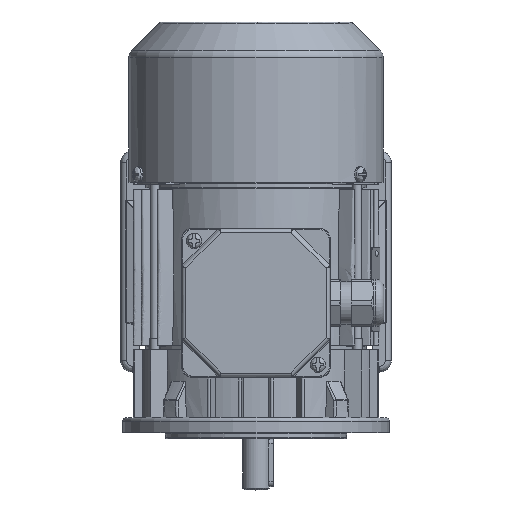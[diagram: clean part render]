
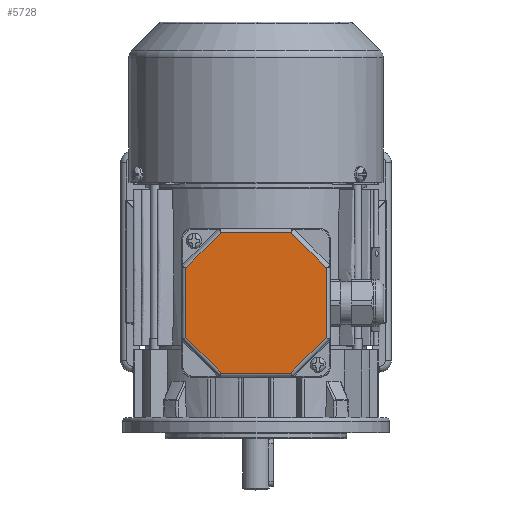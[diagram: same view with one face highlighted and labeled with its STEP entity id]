
A CAD part, top view. The second image highlights one B-rep face of the part: STEP entity #5728.
In plain terms, the highlighted planar face has unit normal (0, 0, 1).
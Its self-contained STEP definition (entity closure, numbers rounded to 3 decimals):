
#5728 = ADVANCED_FACE( '', ( #12521 ), #12522, .T. );
#12521 = FACE_OUTER_BOUND( '', #40007, .T. );
#12522 = PLANE( '', #40008 );
#40007 = EDGE_LOOP( '', ( #71305, #71306, #71307, #71308, #71309, #71310, #71311, #71312 ) );
#40008 = AXIS2_PLACEMENT_3D( '', #71313, #71314, #71315 );
#71305 = ORIENTED_EDGE( '', *, *, #88899, .T. );
#71306 = ORIENTED_EDGE( '', *, *, #88900, .T. );
#71307 = ORIENTED_EDGE( '', *, *, #88901, .T. );
#71308 = ORIENTED_EDGE( '', *, *, #88902, .T. );
#71309 = ORIENTED_EDGE( '', *, *, #88903, .T. );
#71310 = ORIENTED_EDGE( '', *, *, #88904, .T. );
#71311 = ORIENTED_EDGE( '', *, *, #83947, .T. );
#71312 = ORIENTED_EDGE( '', *, *, #88905, .T. );
#71313 = CARTESIAN_POINT( '', ( -39., 39., 12. ) );
#71314 = DIRECTION( '', ( 0., 0., 1. ) );
#71315 = DIRECTION( '', ( 1., 0., 0. ) );
#83947 = EDGE_CURVE( '', #93910, #93911, #93912, .F. );
#88899 = EDGE_CURVE( '', #99176, #92963, #101680, .F. );
#88900 = EDGE_CURVE( '', #92963, #101681, #101682, .T. );
#88901 = EDGE_CURVE( '', #101681, #92444, #101683, .F. );
#88902 = EDGE_CURVE( '', #92444, #100311, #101684, .T. );
#88903 = EDGE_CURVE( '', #100311, #101685, #101686, .F. );
#88904 = EDGE_CURVE( '', #101685, #93910, #101687, .T. );
#88905 = EDGE_CURVE( '', #93911, #99176, #101688, .T. );
#92444 = VERTEX_POINT( '', #107222 );
#92963 = VERTEX_POINT( '', #108844 );
#93910 = VERTEX_POINT( '', #111690 );
#93911 = VERTEX_POINT( '', #111691 );
#93912 = LINE( '', #111692, #111693 );
#99176 = VERTEX_POINT( '', #129497 );
#100311 = VERTEX_POINT( '', #133377 );
#101680 = LINE( '', #139104, #139105 );
#101681 = VERTEX_POINT( '', #139106 );
#101682 = LINE( '', #139107, #139108 );
#101683 = LINE( '', #139109, #139110 );
#101684 = LINE( '', #139111, #139112 );
#101685 = VERTEX_POINT( '', #139113 );
#101686 = LINE( '', #139114, #139115 );
#101687 = LINE( '', #139116, #139117 );
#101688 = LINE( '', #139118, #139119 );
#107222 = CARTESIAN_POINT( '', ( -18.255, 36.825, 12. ) );
#108844 = CARTESIAN_POINT( '', ( 36.825, 18.255, 12. ) );
#111690 = CARTESIAN_POINT( '', ( -18.255, -36.825, 12. ) );
#111691 = CARTESIAN_POINT( '', ( 18.255, -36.825, 12. ) );
#111692 = CARTESIAN_POINT( '', ( 19.069, -36.825, 12. ) );
#111693 = VECTOR( '', #151666, 1000. );
#129497 = CARTESIAN_POINT( '', ( 36.825, -18.255, 12. ) );
#133377 = CARTESIAN_POINT( '', ( -36.825, 18.255, 12. ) );
#139104 = CARTESIAN_POINT( '', ( 36.825, 19.069, 12. ) );
#139105 = VECTOR( '', #157379, 1000. );
#139106 = CARTESIAN_POINT( '', ( 18.255, 36.825, 12. ) );
#139107 = CARTESIAN_POINT( '', ( 17.679, 37.401, 12. ) );
#139108 = VECTOR( '', #157380, 1000. );
#139109 = CARTESIAN_POINT( '', ( -19.069, 36.825, 12. ) );
#139110 = VECTOR( '', #157381, 1000. );
#139111 = CARTESIAN_POINT( '', ( -37.401, 17.679, 12. ) );
#139112 = VECTOR( '', #157382, 1000. );
#139113 = CARTESIAN_POINT( '', ( -36.825, -18.255, 12. ) );
#139114 = CARTESIAN_POINT( '', ( -36.825, -19.069, 12. ) );
#139115 = VECTOR( '', #157383, 1000. );
#139116 = CARTESIAN_POINT( '', ( -17.679, -37.401, 12. ) );
#139117 = VECTOR( '', #157384, 1000. );
#139118 = CARTESIAN_POINT( '', ( 37.401, -17.679, 12. ) );
#139119 = VECTOR( '', #157385, 1000. );
#151666 = DIRECTION( '', ( -1., 0., 0. ) );
#157379 = DIRECTION( '', ( 0., -1., 0. ) );
#157380 = DIRECTION( '', ( -0.707, 0.707, 0. ) );
#157381 = DIRECTION( '', ( 1., 0., 0. ) );
#157382 = DIRECTION( '', ( -0.707, -0.707, 0. ) );
#157383 = DIRECTION( '', ( 0., 1., 0. ) );
#157384 = DIRECTION( '', ( 0.707, -0.707, 0. ) );
#157385 = DIRECTION( '', ( 0.707, 0.707, 0. ) );
